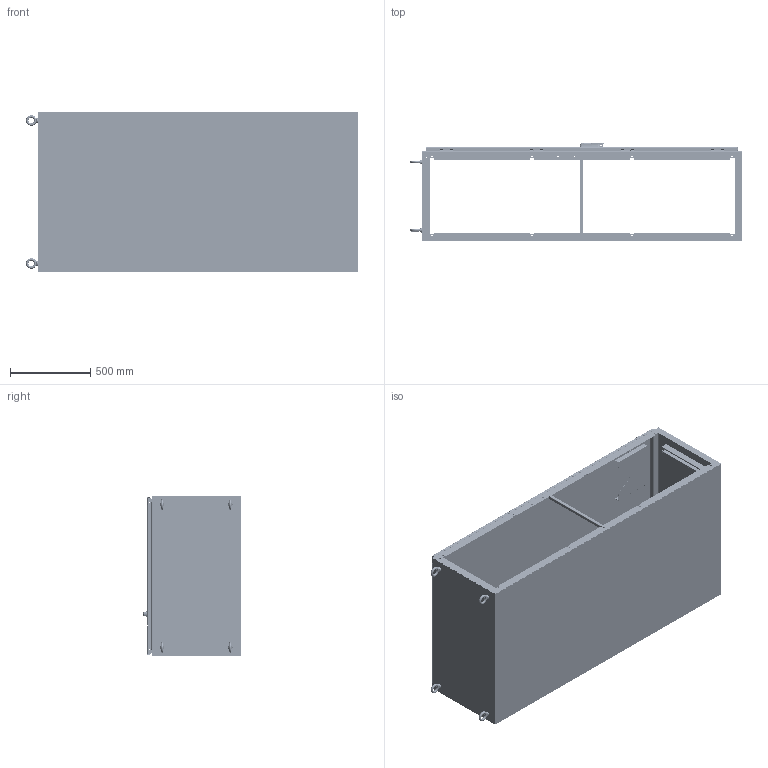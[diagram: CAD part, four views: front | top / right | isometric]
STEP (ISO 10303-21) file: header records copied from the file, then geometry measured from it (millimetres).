
FILE_DESCRIPTION((''),'2;1');
FILE_NAME('MODEL-256_ASM','2021-08-02T15:00:06',('mikek'),('SAGINAW CONTROL & ENGINEERING'),'CREO PARAMETRIC BY PTC INC, 2017260','CREO PARAMETRIC BY PTC INC, 2017260','');
FILE_SCHEMA(('AUTOMOTIVE_DESIGN { 1 0 10303 214 1 1 1 1 }'));
Length unit declared in the file: inch
Products named in the file (74): MODEL-256-R-SD; MODEL-256-BCK; MODEL-256-L-SD; MODEL-256-TP; MODEL-256-BTM; MODEL-256-MSTR-DR; 100837; 111267; 100882; 129334-HANDLE-STOP; 129334-HANDLE-BASE; 129334-INSERT-SPRING; 129334-HANDLE-PIN; 129334-HANDLE-SHAFT; 129334-HANDLE-LOCK-SCREW; 129334-HANDLE; 129334-COINPROOF-INSERT; 129334-HANDLE-LOCK; 129334-HANDLE-SHAFT-O-RING; 129334-HANDLE_ASM; 129334-LOCK-NUT; 129334-BASE-CAP; 129334-CAM-ADAPTER; 129334-NUT; 129334_ASM; 102237; 100030; 102237_ASM; MODEL-256-ROD-UPR; 128146; 128145; 128144; 102482; MODEL-256-ROD-UPR_ASM; 128143; 112504; MODEL-256-ROD-LWR; MODEL-256-ROD-LWR_ASM; MODEL-256-GSKT-MSTR; 128257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
Assembly tree (174 placements, depth 5):
  MODEL-256_ASM
    MODEL-256-R-SD
    MODEL-256-BCK
    MODEL-256-L-SD
    MODEL-256-TP
    MODEL-256-BTM
    MODEL-256-MASTER-DR-ASSY_ASM
      MODEL-256-MSTR-DR
      100837  x7
      111267
      100882  x12
      129334_ASM
        129334-HANDLE-STOP
        129334-HANDLE-BASE
        129334-HANDLE_ASM
          129334-INSERT-SPRING
          129334-HANDLE-PIN
          129334-HANDLE-SHAFT
          129334-HANDLE-LOCK-SCREW
          129334-HANDLE
          129334-COINPROOF-INSERT
          129334-HANDLE-LOCK
          129334-HANDLE-SHAFT-O-RING
        129334-LOCK-NUT
        129334-BASE-CAP
        129334-CAM-ADAPTER
        129334-NUT  x2
      102237_ASM
        102237
        100030  x2
      MODEL-256-ROD-UPR_ASM
        MODEL-256-ROD-UPR
        128146
        128145
        128144
        102482  x2
      128143  x2
      112504  x2
      MODEL-256-ROD-LWR_ASM
        MODEL-256-ROD-LWR
        128146
        128145
        128144
        102482  x2
      MODEL-256-GSKT-MSTR
      128257_ASM  x4
        128257
        126397
      126393  x4
      102483  x4
      101369_ASM  x4
        101369
        101369-STUD
      101221  x4
    MODEL-256-SLAVE-DR-ASSY_ASM
      MODEL-256-SLV-DR
      100837  x3
      MODEL-256-GSKT-SLV
      128257_ASM  x4
        128257
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Bounding box: 2074.9 x 611.47 x 1004.01 mm (x, y, z)
Volume: 19511326 mm3; surface area: 14279229.8 mm2
Topology: 187 solids, 187 shells, 17744 faces, 47105 edges, 29699 vertices
Faces by surface type: plane 6022, bspline 5476, cylinder 4427, torus 941, cone 588, sphere 287, extrusion 3
Entity records: 308169 total; most frequent: CARTESIAN_POINT 126259, ORIENTED_EDGE 27190, DIRECTION 24563, PRESENTATION_STYLE_ASSIGNMENT 14033, STYLED_ITEM 14033, EDGE_CURVE 13595, CURVE_STYLE 13583, AXIS2_PLACEMENT_3D 9228
